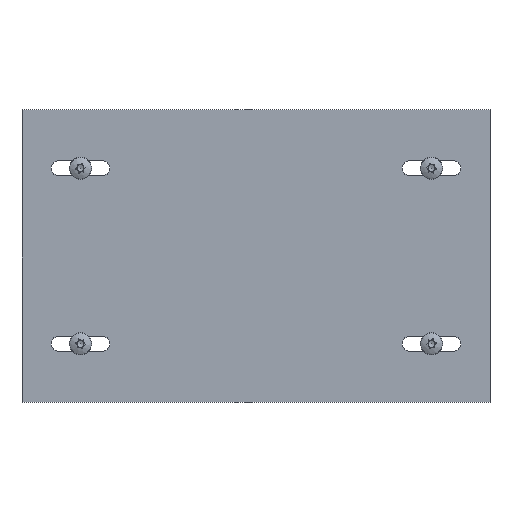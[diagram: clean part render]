
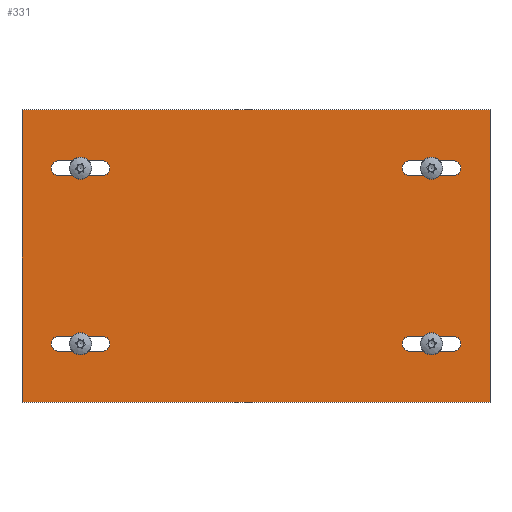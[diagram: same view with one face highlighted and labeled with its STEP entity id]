
A CAD part, top view. The second image highlights one B-rep face of the part: STEP entity #331.
In plain terms, the highlighted planar face has unit normal (0, 0, 1).
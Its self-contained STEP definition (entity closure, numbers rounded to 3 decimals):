
#55 = EDGE_CURVE('',#56,#58,#60,.T.);
#56 = VERTEX_POINT('',#57);
#57 = CARTESIAN_POINT('',(-100.,62.5,0.));
#58 = VERTEX_POINT('',#59);
#59 = CARTESIAN_POINT('',(-100.,-62.5,0.));
#60 = LINE('',#61,#62);
#61 = CARTESIAN_POINT('',(-100.,-62.5,0.));
#62 = VECTOR('',#63,1.);
#63 = DIRECTION('',(-0.,-1.,-0.));
#95 = EDGE_CURVE('',#96,#56,#98,.T.);
#96 = VERTEX_POINT('',#97);
#97 = CARTESIAN_POINT('',(100.,62.5,0.));
#98 = LINE('',#99,#100);
#99 = CARTESIAN_POINT('',(100.,62.5,0.));
#100 = VECTOR('',#101,1.);
#101 = DIRECTION('',(-1.,0.,0.));
#126 = EDGE_CURVE('',#127,#96,#129,.T.);
#127 = VERTEX_POINT('',#128);
#128 = CARTESIAN_POINT('',(100.,-62.5,0.));
#129 = LINE('',#130,#131);
#130 = CARTESIAN_POINT('',(100.,-62.5,0.));
#131 = VECTOR('',#132,1.);
#132 = DIRECTION('',(0.,1.,0.));
#157 = EDGE_CURVE('',#58,#127,#158,.T.);
#158 = LINE('',#159,#160);
#159 = CARTESIAN_POINT('',(100.,-62.5,0.));
#160 = VECTOR('',#161,1.);
#161 = DIRECTION('',(1.,0.,-0.));
#331 = ADVANCED_FACE('',(#332,#368,#404,#440,#476),#482,.T.);
#332 = FACE_BOUND('',#333,.T.);
#333 = EDGE_LOOP('',(#334,#345,#353,#362));
#334 = ORIENTED_EDGE('',*,*,#335,.F.);
#335 = EDGE_CURVE('',#336,#338,#340,.T.);
#336 = VERTEX_POINT('',#337);
#337 = CARTESIAN_POINT('',(-65.75,-40.75,0.));
#338 = VERTEX_POINT('',#339);
#339 = CARTESIAN_POINT('',(-65.75,-34.25,0.));
#340 = CIRCLE('',#341,3.25);
#341 = AXIS2_PLACEMENT_3D('',#342,#343,#344);
#342 = CARTESIAN_POINT('',(-65.75,-37.5,0.));
#343 = DIRECTION('',(0.,0.,1.));
#344 = DIRECTION('',(1.,0.,-0.));
#345 = ORIENTED_EDGE('',*,*,#346,.F.);
#346 = EDGE_CURVE('',#347,#336,#349,.T.);
#347 = VERTEX_POINT('',#348);
#348 = CARTESIAN_POINT('',(-84.25,-40.75,0.));
#349 = LINE('',#350,#351);
#350 = CARTESIAN_POINT('',(-65.75,-40.75,0.));
#351 = VECTOR('',#352,1.);
#352 = DIRECTION('',(1.,-0.,-0.));
#353 = ORIENTED_EDGE('',*,*,#354,.F.);
#354 = EDGE_CURVE('',#355,#347,#357,.T.);
#355 = VERTEX_POINT('',#356);
#356 = CARTESIAN_POINT('',(-84.25,-34.25,0.));
#357 = CIRCLE('',#358,3.25);
#358 = AXIS2_PLACEMENT_3D('',#359,#360,#361);
#359 = CARTESIAN_POINT('',(-84.25,-37.5,0.));
#360 = DIRECTION('',(0.,0.,1.));
#361 = DIRECTION('',(1.,0.,-0.));
#362 = ORIENTED_EDGE('',*,*,#363,.F.);
#363 = EDGE_CURVE('',#338,#355,#364,.T.);
#364 = LINE('',#365,#366);
#365 = CARTESIAN_POINT('',(-65.75,-34.25,0.));
#366 = VECTOR('',#367,1.);
#367 = DIRECTION('',(-1.,0.,0.));
#368 = FACE_BOUND('',#369,.T.);
#369 = EDGE_LOOP('',(#370,#381,#389,#398));
#370 = ORIENTED_EDGE('',*,*,#371,.F.);
#371 = EDGE_CURVE('',#372,#374,#376,.T.);
#372 = VERTEX_POINT('',#373);
#373 = CARTESIAN_POINT('',(-65.75,34.25,0.));
#374 = VERTEX_POINT('',#375);
#375 = CARTESIAN_POINT('',(-65.75,40.75,0.));
#376 = CIRCLE('',#377,3.25);
#377 = AXIS2_PLACEMENT_3D('',#378,#379,#380);
#378 = CARTESIAN_POINT('',(-65.75,37.5,0.));
#379 = DIRECTION('',(0.,0.,1.));
#380 = DIRECTION('',(-1.,0.,0.));
#381 = ORIENTED_EDGE('',*,*,#382,.F.);
#382 = EDGE_CURVE('',#383,#372,#385,.T.);
#383 = VERTEX_POINT('',#384);
#384 = CARTESIAN_POINT('',(-84.25,34.25,0.));
#385 = LINE('',#386,#387);
#386 = CARTESIAN_POINT('',(-65.75,34.25,0.));
#387 = VECTOR('',#388,1.);
#388 = DIRECTION('',(1.,-0.,-0.));
#389 = ORIENTED_EDGE('',*,*,#390,.F.);
#390 = EDGE_CURVE('',#391,#383,#393,.T.);
#391 = VERTEX_POINT('',#392);
#392 = CARTESIAN_POINT('',(-84.25,40.75,0.));
#393 = CIRCLE('',#394,3.25);
#394 = AXIS2_PLACEMENT_3D('',#395,#396,#397);
#395 = CARTESIAN_POINT('',(-84.25,37.5,0.));
#396 = DIRECTION('',(0.,0.,1.));
#397 = DIRECTION('',(-1.,0.,0.));
#398 = ORIENTED_EDGE('',*,*,#399,.F.);
#399 = EDGE_CURVE('',#374,#391,#400,.T.);
#400 = LINE('',#401,#402);
#401 = CARTESIAN_POINT('',(-65.75,40.75,0.));
#402 = VECTOR('',#403,1.);
#403 = DIRECTION('',(-1.,0.,0.));
#404 = FACE_BOUND('',#405,.T.);
#405 = EDGE_LOOP('',(#406,#417,#425,#434));
#406 = ORIENTED_EDGE('',*,*,#407,.F.);
#407 = EDGE_CURVE('',#408,#410,#412,.T.);
#408 = VERTEX_POINT('',#409);
#409 = CARTESIAN_POINT('',(65.75,40.75,0.));
#410 = VERTEX_POINT('',#411);
#411 = CARTESIAN_POINT('',(65.75,34.25,0.));
#412 = CIRCLE('',#413,3.25);
#413 = AXIS2_PLACEMENT_3D('',#414,#415,#416);
#414 = CARTESIAN_POINT('',(65.75,37.5,0.));
#415 = DIRECTION('',(0.,0.,1.));
#416 = DIRECTION('',(1.,0.,-0.));
#417 = ORIENTED_EDGE('',*,*,#418,.F.);
#418 = EDGE_CURVE('',#419,#408,#421,.T.);
#419 = VERTEX_POINT('',#420);
#420 = CARTESIAN_POINT('',(84.25,40.75,0.));
#421 = LINE('',#422,#423);
#422 = CARTESIAN_POINT('',(65.75,40.75,0.));
#423 = VECTOR('',#424,1.);
#424 = DIRECTION('',(-1.,-0.,-0.));
#425 = ORIENTED_EDGE('',*,*,#426,.F.);
#426 = EDGE_CURVE('',#427,#419,#429,.T.);
#427 = VERTEX_POINT('',#428);
#428 = CARTESIAN_POINT('',(84.25,34.25,0.));
#429 = CIRCLE('',#430,3.25);
#430 = AXIS2_PLACEMENT_3D('',#431,#432,#433);
#431 = CARTESIAN_POINT('',(84.25,37.5,0.));
#432 = DIRECTION('',(0.,0.,1.));
#433 = DIRECTION('',(1.,0.,-0.));
#434 = ORIENTED_EDGE('',*,*,#435,.F.);
#435 = EDGE_CURVE('',#410,#427,#436,.T.);
#436 = LINE('',#437,#438);
#437 = CARTESIAN_POINT('',(65.75,34.25,0.));
#438 = VECTOR('',#439,1.);
#439 = DIRECTION('',(1.,0.,0.));
#440 = FACE_BOUND('',#441,.T.);
#441 = EDGE_LOOP('',(#442,#453,#461,#470));
#442 = ORIENTED_EDGE('',*,*,#443,.F.);
#443 = EDGE_CURVE('',#444,#446,#448,.T.);
#444 = VERTEX_POINT('',#445);
#445 = CARTESIAN_POINT('',(65.75,-34.25,0.));
#446 = VERTEX_POINT('',#447);
#447 = CARTESIAN_POINT('',(65.75,-40.75,0.));
#448 = CIRCLE('',#449,3.25);
#449 = AXIS2_PLACEMENT_3D('',#450,#451,#452);
#450 = CARTESIAN_POINT('',(65.75,-37.5,0.));
#451 = DIRECTION('',(0.,0.,1.));
#452 = DIRECTION('',(-1.,0.,0.));
#453 = ORIENTED_EDGE('',*,*,#454,.F.);
#454 = EDGE_CURVE('',#455,#444,#457,.T.);
#455 = VERTEX_POINT('',#456);
#456 = CARTESIAN_POINT('',(84.25,-34.25,0.));
#457 = LINE('',#458,#459);
#458 = CARTESIAN_POINT('',(65.75,-34.25,0.));
#459 = VECTOR('',#460,1.);
#460 = DIRECTION('',(-1.,-0.,-0.));
#461 = ORIENTED_EDGE('',*,*,#462,.F.);
#462 = EDGE_CURVE('',#463,#455,#465,.T.);
#463 = VERTEX_POINT('',#464);
#464 = CARTESIAN_POINT('',(84.25,-40.75,0.));
#465 = CIRCLE('',#466,3.25);
#466 = AXIS2_PLACEMENT_3D('',#467,#468,#469);
#467 = CARTESIAN_POINT('',(84.25,-37.5,0.));
#468 = DIRECTION('',(0.,0.,1.));
#469 = DIRECTION('',(-1.,0.,0.));
#470 = ORIENTED_EDGE('',*,*,#471,.F.);
#471 = EDGE_CURVE('',#446,#463,#472,.T.);
#472 = LINE('',#473,#474);
#473 = CARTESIAN_POINT('',(65.75,-40.75,0.));
#474 = VECTOR('',#475,1.);
#475 = DIRECTION('',(1.,0.,0.));
#476 = FACE_BOUND('',#477,.T.);
#477 = EDGE_LOOP('',(#478,#479,#480,#481));
#478 = ORIENTED_EDGE('',*,*,#55,.T.);
#479 = ORIENTED_EDGE('',*,*,#157,.T.);
#480 = ORIENTED_EDGE('',*,*,#126,.T.);
#481 = ORIENTED_EDGE('',*,*,#95,.T.);
#482 = PLANE('',#483);
#483 = AXIS2_PLACEMENT_3D('',#484,#485,#486);
#484 = CARTESIAN_POINT('',(0.,0.,0.));
#485 = DIRECTION('',(0.,-0.,1.));
#486 = DIRECTION('',(1.,0.,0.));
